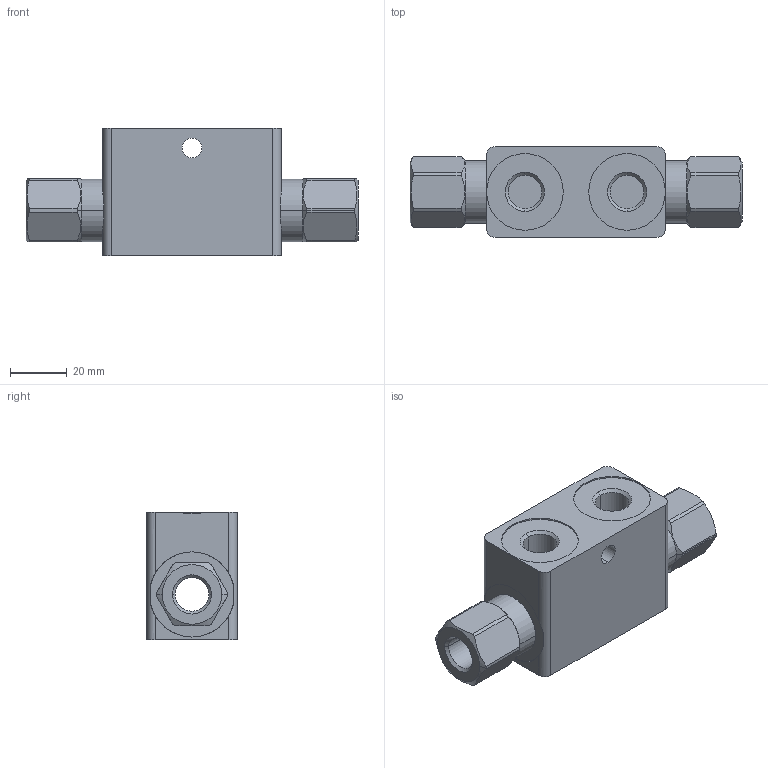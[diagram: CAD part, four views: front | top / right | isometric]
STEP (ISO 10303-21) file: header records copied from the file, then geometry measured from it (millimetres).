
FILE_DESCRIPTION (( 'STEP AP214' ), '1' );
FILE_NAME ('VRP14001.STEP', '2025-05-21T01:14:30', ( '' ), ( '' ), 'SwSTEP 2.0', 'SolidWorks 2023', '' );
FILE_SCHEMA (( 'AUTOMOTIVE_DESIGN' ));
Length unit declared in the file: millimetre
Products named in the file (1): VRP14001
Bounding box: 117 x 32 x 45 mm (x, y, z)
Surface area: 19148.1 mm2 (no closed solid volume)
Topology: 0 solids, 3 shells, 88 faces, 230 edges, 148 vertices
Faces by surface type: cylinder 42, plane 26, cone 16, torus 4
Entity records: 3028 total; most frequent: CARTESIAN_POINT 811, DIRECTION 488, ORIENTED_EDGE 444, EDGE_CURVE 230, AXIS2_PLACEMENT_3D 201, VERTEX_POINT 148, CIRCLE 112, EDGE_LOOP 98
